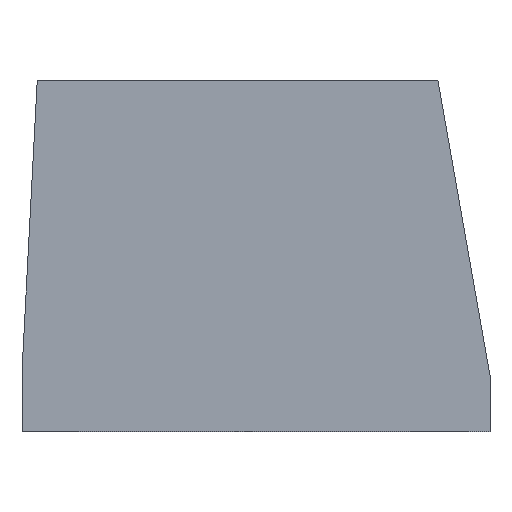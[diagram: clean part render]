
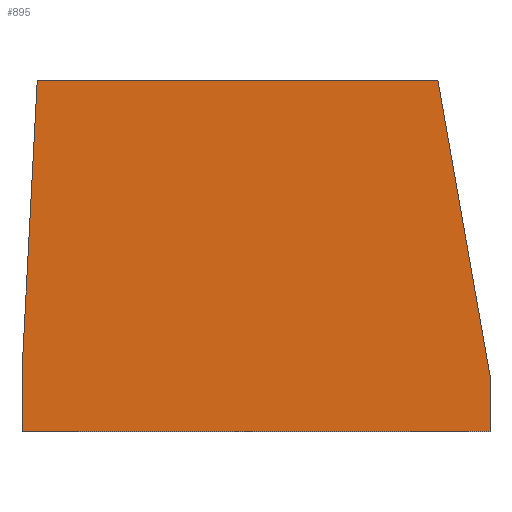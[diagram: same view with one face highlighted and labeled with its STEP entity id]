
A CAD part, top view. The second image highlights one B-rep face of the part: STEP entity #895.
In plain terms, the highlighted planar face has unit normal (0, 0, 1).
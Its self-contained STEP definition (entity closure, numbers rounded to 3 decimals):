
#57 = ORIENTED_EDGE ( 'NONE', *, *, #763, .F. ) ;
#67 = FACE_OUTER_BOUND ( 'NONE', #429, .T. ) ;
#105 = LINE ( 'NONE', #455, #117 ) ;
#116 = LINE ( 'NONE', #935, #175 ) ;
#117 = VECTOR ( 'NONE', #468, 1000. ) ;
#122 = VECTOR ( 'NONE', #1012, 1000. ) ;
#155 = ORIENTED_EDGE ( 'NONE', *, *, #752, .F. ) ;
#175 = VECTOR ( 'NONE', #925, 1000. ) ;
#177 = VECTOR ( 'NONE', #1033, 1000. ) ;
#203 = VECTOR ( 'NONE', #967, 1000. ) ;
#248 = LINE ( 'NONE', #1009, #177 ) ;
#267 = LINE ( 'NONE', #973, #122 ) ;
#276 = LINE ( 'NONE', #471, #280 ) ;
#280 = VECTOR ( 'NONE', #453, 1000. ) ;
#349 = ORIENTED_EDGE ( 'NONE', *, *, #761, .F. ) ;
#351 = ORIENTED_EDGE ( 'NONE', *, *, #816, .F. ) ;
#361 = ORIENTED_EDGE ( 'NONE', *, *, #760, .F. ) ;
#385 = ORIENTED_EDGE ( 'NONE', *, *, #818, .F. ) ;
#408 = LINE ( 'NONE', #968, #203 ) ;
#429 = EDGE_LOOP ( 'NONE', ( #385, #349, #155, #57, #361, #351 ) ) ;
#453 = DIRECTION ( 'NONE',  ( 0.174, -0.985, 0. ) ) ;
#455 = CARTESIAN_POINT ( 'NONE',  ( -16.659, 31.5, 5.2 ) ) ;
#468 = DIRECTION ( 'NONE',  ( 1., 0., 0. ) ) ;
#471 = CARTESIAN_POINT ( 'NONE',  ( 18.109, 27.066, 5.2 ) ) ;
#530 = CARTESIAN_POINT ( 'NONE',  ( 17.327, 31.5, 5.2 ) ) ;
#547 = CARTESIAN_POINT ( 'NONE',  ( -20., 0., 5.2 ) ) ;
#566 = PLANE ( 'NONE',  #844 ) ;
#581 = CARTESIAN_POINT ( 'NONE',  ( 22., 5., 5.2 ) ) ;
#599 = DIRECTION ( 'NONE',  ( 0., 0., 1. ) ) ;
#625 = CARTESIAN_POINT ( 'NONE',  ( 22., 0., 5.2 ) ) ;
#638 = DIRECTION ( 'NONE',  ( 1., 0., 0. ) ) ;
#651 = CARTESIAN_POINT ( 'NONE',  ( -20., 5.4, 5.2 ) ) ;
#713 = CARTESIAN_POINT ( 'NONE',  ( -18.632, 31.5, 5.2 ) ) ;
#729 = CARTESIAN_POINT ( 'NONE',  ( 0.317, 15.085, 5.2 ) ) ;
#752 = EDGE_CURVE ( 'NONE', #918, #961, #408, .T. ) ;
#760 = EDGE_CURVE ( 'NONE', #957, #1000, #116, .T. ) ;
#761 = EDGE_CURVE ( 'NONE', #961, #1032, #267, .T. ) ;
#763 = EDGE_CURVE ( 'NONE', #1000, #918, #248, .T. ) ;
#816 = EDGE_CURVE ( 'NONE', #934, #957, #276, .T. ) ;
#818 = EDGE_CURVE ( 'NONE', #1032, #934, #105, .T. ) ;
#844 = AXIS2_PLACEMENT_3D ( 'NONE', #729, #599, #638 ) ;
#895 = ADVANCED_FACE ( 'NONE', ( #67 ), #566, .T. ) ;
#918 = VERTEX_POINT ( 'NONE', #547 ) ;
#925 = DIRECTION ( 'NONE',  ( 0., -1., 0. ) ) ;
#934 = VERTEX_POINT ( 'NONE', #530 ) ;
#935 = CARTESIAN_POINT ( 'NONE',  ( 22., -1.892, 5.2 ) ) ;
#957 = VERTEX_POINT ( 'NONE', #581 ) ;
#961 = VERTEX_POINT ( 'NONE', #651 ) ;
#967 = DIRECTION ( 'NONE',  ( 0., 1., 0. ) ) ;
#968 = CARTESIAN_POINT ( 'NONE',  ( -20., 0.388, 5.2 ) ) ;
#973 = CARTESIAN_POINT ( 'NONE',  ( -18.76, 29.06, 5.2 ) ) ;
#1000 = VERTEX_POINT ( 'NONE', #625 ) ;
#1009 = CARTESIAN_POINT ( 'NONE',  ( 20.122, 0., 5.2 ) ) ;
#1012 = DIRECTION ( 'NONE',  ( 0.052, 0.999, 0. ) ) ;
#1032 = VERTEX_POINT ( 'NONE', #713 ) ;
#1033 = DIRECTION ( 'NONE',  ( -1., 0., 0. ) ) ;
